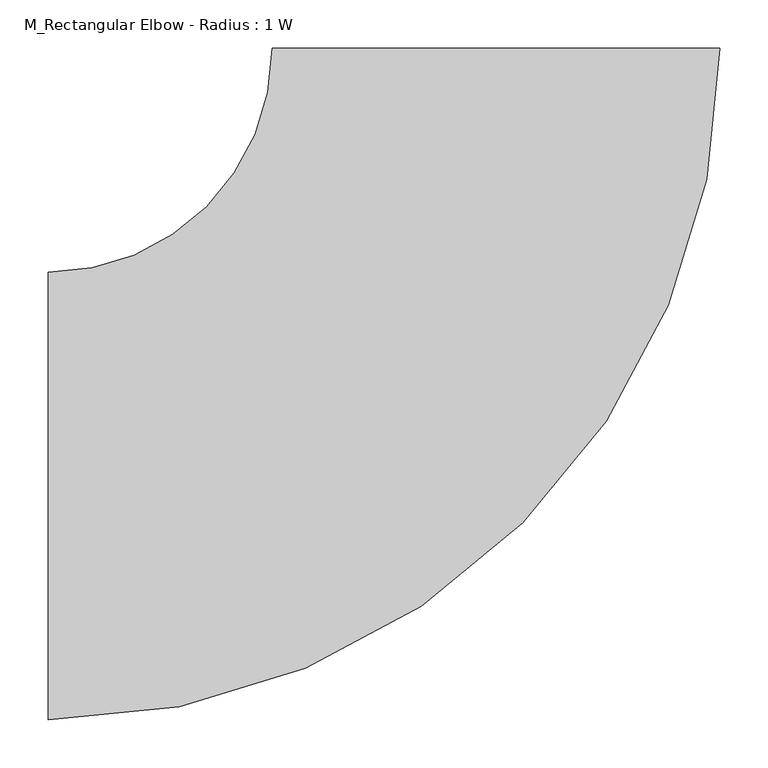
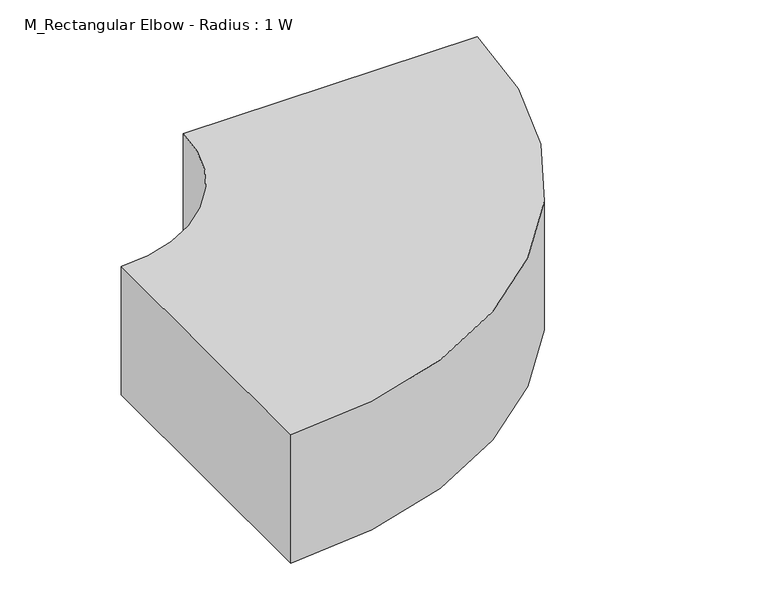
"""IFC4 building model written with IfcOpenShell, lengths in millimetres: duct fitting geometry, M_Rectangular Elbow - Radius : 1 W."""

from ifc_helpers import new_model, si_unit, point, frame, frame_2d, origin, place, context, project, spatial, polyline, circle_curve, trimmed, segment, composite_curve, outline, extrude, source, transform, mapped, element, save


def m_rectangular_elbow_radius_1_w_0fa52825(model_context):
    return source(origin(), model_context, "Body", "SweptSolid", [
        extrude(outline(composite_curve([segment(trimmed(circle_curve(frame_2d((-462.0, 462.0)), 693.0), [point((231.0, 462.0))], [point((-462.0, -231.0))], False, "CARTESIAN"), True, "CONTINUOUS"), segment(polyline([(-462.0, -231.0), (-462.0, 231.0)]), True, "CONTINUOUS"), segment(trimmed(circle_curve(frame_2d((-462.0, 462.0)), 231.0), [point((-462.0, 231.0))], [point((-231.0, 462.0))], True, "CARTESIAN"), True, "CONTINUOUS"), segment(polyline([(-231.0, 462.0), (231.0, 462.0)]), True, "CONTINUOUS")], self_intersect=False)), frame((0.0, 0.0, -107.0), z_axis=(0.0, 0.0, 1.0), x_axis=(1.0, 0.0, 0.0)), (0.0, 0.0, 1.0), 214.0),
    ])


if __name__ == "__main__":
    model = new_model("IFC4")
    model_context = context("Model", 3, world=origin())
    ifc_project = project(units=[si_unit("LENGTHUNIT", "METRE", prefix="MILLI")], contexts=[model_context])
    site = spatial("IfcSite", under=ifc_project)
    building = spatial("IfcBuilding", under=site)
    placement = place(None, origin())
    m_rectangular_elbow_radius_1_w_shape = m_rectangular_elbow_radius_1_w_0fa52825(model_context)
    element("IfcDuctFitting", 1, ObjectType="M_Rectangular Elbow - Radius : 1 W", at=placement, inside=building, context=model_context, shape_type="MappedRepresentation", body=[
        mapped(m_rectangular_elbow_radius_1_w_shape, transform((0.0, 0.0, 0.0), x_axis=(1.0, 0.0, 0.0), y_axis=(0.0, 1.0, 0.0), z_axis=(0.0, 0.0, 1.0))),
    ])
    save(model, "model.ifc")
